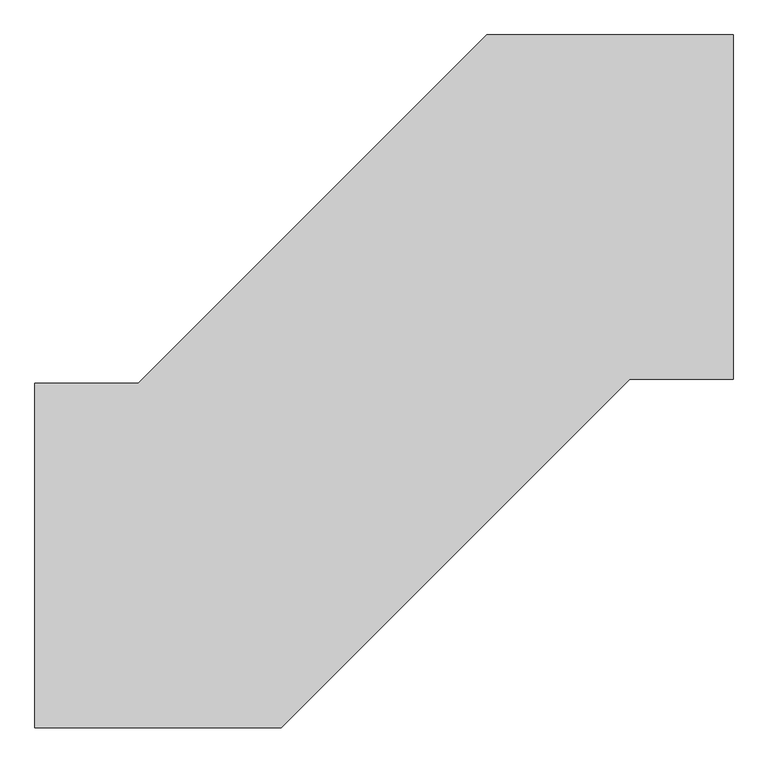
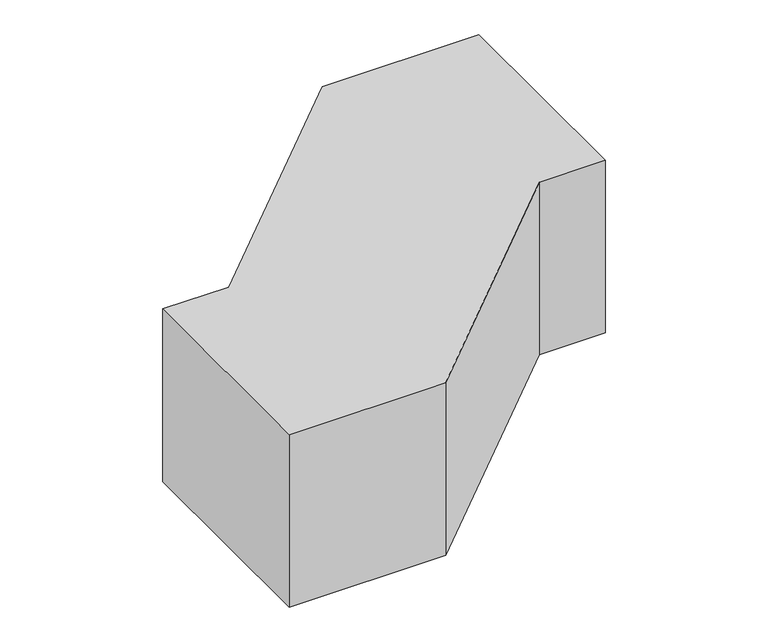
"""IFC4 building model written with IfcOpenShell, lengths in millimetres: duct fitting geometry, 2017_Quiebro_Climaver_Quiebro : Quiebro_Climaver."""

import ifcopenshell
import ifcopenshell.guid

model = None  # the IFC model being written
_history = None  # IfcOwnerHistory: only IFC2X3 demands one
_inside = {}  # id of a spatial element -> (the spatial element, [elements in it])
_under = {}  # id of a project, library or spatial element -> (it, [spatial elements below it])
_declared = {}  # id of a project -> (the project, [libraries it declares])
_typed = {}  # id of a type object -> (the type object, [elements of that type])
_made_of = {}  # id of a material, layer set ... -> (it, [elements and type objects made of it])


def new_model(schema):
    """Start an empty IFC model of exactly this schema.

    Asked for "IFC4X3", IfcOpenShell would pick the latest addendum, in which some entities
    have other attributes; the version numbers below select the first issue.
    IFC2X3 requires an IfcOwnerHistory on every rooted entity: one is made here for all.
    """
    global model, _history
    if schema == "IFC4X3":
        model = ifcopenshell.file(schema_version=(4, 3, 0, 0))
    else:
        model = ifcopenshell.file(schema=schema)
    _inside.clear()
    _under.clear()
    _declared.clear()
    _typed.clear()
    _made_of.clear()
    _history = None
    if model.schema == "IFC2X3":
        org = make("IfcOrganization", Name="unknown")
        user = make(
            "IfcPersonAndOrganization",
            ThePerson=make("IfcPerson", FamilyName="unknown"),
            TheOrganization=org,
        )
        app = make(
            "IfcApplication",
            ApplicationDeveloper=org,
            Version="unknown",
            ApplicationFullName="unknown",
            ApplicationIdentifier="unknown",
        )
        _history = make(
            "IfcOwnerHistory",
            OwningUser=user,
            OwningApplication=app,
            ChangeAction="ADDED",
            CreationDate=0,
        )
    return model


def make(cls, **values):
    """One entity of the class cls with the attributes given. An attribute that is None is left unset."""
    return model.create_entity(
        cls, **{name: value for name, value in values.items() if value is not None}
    )


def rooted(cls, **values):
    """An entity with a GlobalId (a new one), such as an element, a storey or a relation."""
    return make(cls, GlobalId=ifcopenshell.guid.new(), OwnerHistory=_history, **values)


def si_unit(unit_type, name, prefix=None):
    """IfcSIUnit, for example si_unit("LENGTHUNIT", "METRE", prefix="MILLI")."""
    return make("IfcSIUnit", UnitType=unit_type, Prefix=prefix, Name=name)


def assignment(units):
    """IfcUnitAssignment: the units of a project."""
    return None if units is None else make("IfcUnitAssignment", Units=units)


def point(xyz):
    """IfcCartesianPoint."""
    return None if xyz is None else make("IfcCartesianPoint", Coordinates=xyz)


def direction(xyz):
    """IfcDirection."""
    return None if xyz is None else make("IfcDirection", DirectionRatios=xyz)


def frame(location, z_axis=None, x_axis=None):
    """IfcAxis2Placement3D, a coordinate frame: its origin and axes. An axis left out is left unset."""
    return make(
        "IfcAxis2Placement3D",
        Location=point(location),
        Axis=direction(z_axis),
        RefDirection=direction(x_axis),
    )


def origin():
    """The frame at (0, 0, 0) with its axes left unset."""
    return frame((0.0, 0.0, 0.0))


def place(relative_to, where):
    """IfcLocalPlacement: puts the frame where relative to a parent placement (None: the world)."""
    return make(
        "IfcLocalPlacement", PlacementRelTo=relative_to, RelativePlacement=where
    )


def context(
    kind, dimensions, precision=None, world=None, true_north=None, identifier=None
):
    """IfcGeometricRepresentationContext, for example the 3D "Model" context."""
    return make(
        "IfcGeometricRepresentationContext",
        ContextIdentifier=identifier,
        ContextType=kind,
        CoordinateSpaceDimension=dimensions,
        Precision=precision,
        WorldCoordinateSystem=world,
        TrueNorth=true_north,
    )


def project(units=None, contexts=None):
    """IfcProject with its units and contexts."""
    return rooted(
        "IfcProject",
        Name="project",
        RepresentationContexts=contexts,
        UnitsInContext=assignment(units),
    )


def spatial(cls, under=None, at=None, **own):
    """A site, building, storey or space (cls), placed at a placement, below another one or the project."""
    s = rooted(cls, ObjectPlacement=at, **own)
    if under is not None:
        _under.setdefault(under.id(), (under, []))[1].append(s)
    return s


def polyline(points):
    """IfcPolyline through the points."""
    return make("IfcPolyline", Points=[point(p) for p in points])


def outline(outer, holes=None, kind="AREA"):
    """IfcArbitraryClosedProfileDef: a profile drawn as a closed curve; with holes, ...WithVoids."""
    if holes is None:
        return make("IfcArbitraryClosedProfileDef", ProfileType=kind, OuterCurve=outer)
    return make(
        "IfcArbitraryProfileDefWithVoids",
        ProfileType=kind,
        OuterCurve=outer,
        InnerCurves=holes,
    )


def extrude(swept, where, along, depth):
    """IfcExtrudedAreaSolid: the profile swept, set in the frame where, extruded along a direction by depth."""
    return make(
        "IfcExtrudedAreaSolid",
        SweptArea=swept,
        Position=where,
        ExtrudedDirection=direction(along),
        Depth=depth,
    )


def shape(context_of_items, identifier, shape_type, items):
    """IfcShapeRepresentation: the items that make up one representation, for example the "Body"."""
    return make(
        "IfcShapeRepresentation",
        ContextOfItems=context_of_items,
        RepresentationIdentifier=identifier,
        RepresentationType=shape_type,
        Items=items,
    )


def source(mapping_origin, context_of_items, identifier, shape_type, items):
    """IfcRepresentationMap: a shape defined once, which mapped items show again and again."""
    return make(
        "IfcRepresentationMap",
        MappingOrigin=mapping_origin,
        MappedRepresentation=shape(context_of_items, identifier, shape_type, items),
    )


def transform(
    local_origin,
    x_axis=None,
    y_axis=None,
    z_axis=None,
    scale=None,
    scale2=None,
    scale3=None,
    uniform=True,
):
    """IfcCartesianTransformationOperator3D, or its non-uniform kind. x_axis, y_axis, z_axis: its Axis1, 2, 3."""
    if uniform:
        return make(
            "IfcCartesianTransformationOperator3D",
            Axis1=direction(x_axis),
            Axis2=direction(y_axis),
            LocalOrigin=point(local_origin),
            Scale=scale,
            Axis3=direction(z_axis),
        )
    return make(
        "IfcCartesianTransformationOperator3DnonUniform",
        Axis1=direction(x_axis),
        Axis2=direction(y_axis),
        LocalOrigin=point(local_origin),
        Scale=scale,
        Axis3=direction(z_axis),
        Scale2=scale2,
        Scale3=scale3,
    )


def mapped(mapping_source, mapping_target):
    """IfcMappedItem: shows the shape of a source again, moved by a transform."""
    return make(
        "IfcMappedItem", MappingSource=mapping_source, MappingTarget=mapping_target
    )


def made_of(thing, what):
    """Note that an element or type object is made of a material, layer set ...; save() writes the relation."""
    if what is not None:
        _made_of.setdefault(what.id(), (what, []))[1].append(thing)
    return thing


def element(
    cls,
    number,
    at=None,
    inside=None,
    cuts=None,
    type_object=None,
    material=None,
    context=None,
    identifier="Body",
    shape_type=None,
    held_by="IfcProductDefinitionShape",
    body=None,
    shapes=None,
    **own,
):
    """One element of the class cls, such as IfcWall. Its Tag is "e" and its number.

    at: its placement. inside: the storey or other place that contains it. cuts: it is an
    opening in that element (IfcRelVoidsElement). A single representation is given by context,
    identifier, shape_type and body (its items); several are given by shapes. held_by: the class
    of the entity that holds the representations. save() writes the other relations.
    """
    e = rooted(cls, Tag="e%d" % number, ObjectPlacement=at, **own)
    if body is not None:
        shapes = [shape(context, identifier, shape_type, body)]
    if shapes is not None:
        e.Representation = make(held_by, Representations=shapes)
    if inside is not None:
        _inside.setdefault(inside.id(), (inside, []))[1].append(e)
    if cuts is not None:
        rooted(
            "IfcRelVoidsElement", RelatingBuildingElement=cuts, RelatedOpeningElement=e
        )
    if type_object is not None:
        _typed.setdefault(type_object.id(), (type_object, []))[1].append(e)
    return made_of(e, material)


def aggregate(whole, parts):
    """IfcRelAggregates: a whole, such as a stair, and the parts it consists of."""
    return rooted("IfcRelAggregates", RelatingObject=whole, RelatedObjects=parts)


def save(model, path):
    """Write the relations noted so far, then the file.

    IfcRelAggregates (storeys below a building ...), IfcRelContainedInSpatialStructure (elements
    in a storey), IfcRelDefinesByType, IfcRelAssociatesMaterial and IfcRelDeclares: one each for
    every whole, place, type object, material and project.
    """
    for whole, parts in _under.values():
        aggregate(whole, parts)
    for where, things in _inside.values():
        rooted(
            "IfcRelContainedInSpatialStructure",
            RelatedElements=things,
            RelatingStructure=where,
        )
    for kind, things in _typed.values():
        rooted("IfcRelDefinesByType", RelatedObjects=things, RelatingType=kind)
    for what, things in _made_of.values():
        rooted("IfcRelAssociatesMaterial", RelatedObjects=things, RelatingMaterial=what)
    for by, libraries in _declared.values():
        rooted("IfcRelDeclares", RelatingContext=by, RelatedDefinitions=libraries)
    model.write(path)


def duct_fitting_869a5c6d(model_context):
    return source(origin(), model_context, "Body", "SweptSolid", [
        extrude(outline(polyline([(-174.6, -300.0), (-174.6, 300.0), (5.9359313, 300.0), (613.2213562, 907.2854249), (1042.2854249, 907.2854249), (1042.2854249, 307.2854249), (861.7494937, 307.2854249), (254.4640687, -300.0), (-174.6, -300.0)])), frame((0.0, 0.0, -250.0), z_axis=(0.0, 0.0, 1.0), x_axis=(1.0, 0.0, 0.0)), (0.0, 0.0, 1.0), 500.0),
    ])


if __name__ == "__main__":
    model = new_model("IFC4")
    model_context = context("Model", 3, world=origin())
    ifc_project = project(units=[si_unit("LENGTHUNIT", "METRE", prefix="MILLI")], contexts=[model_context])
    site = spatial("IfcSite", under=ifc_project)
    building = spatial("IfcBuilding", under=site)
    placement = place(None, origin())
    duct_fitting_shape = duct_fitting_869a5c6d(model_context)
    element("IfcDuctFitting", 1, ObjectType="2017_Quiebro_Climaver_Quiebro : Quiebro_Climaver", at=placement, inside=building, context=model_context, shape_type="MappedRepresentation", body=[
        mapped(duct_fitting_shape, transform((0.0, 0.0, 0.0), x_axis=(1.0, 0.0, 0.0), y_axis=(0.0, 1.0, 0.0), z_axis=(0.0, 0.0, 1.0))),
    ])
    save(model, "model.ifc")
